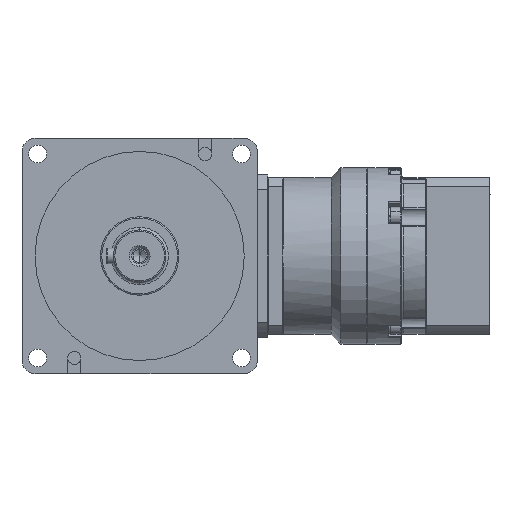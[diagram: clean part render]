
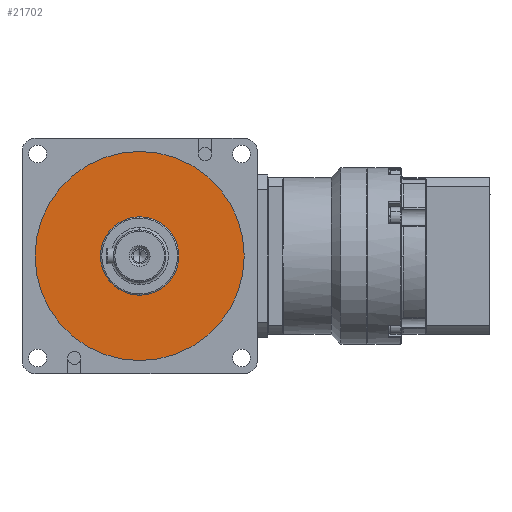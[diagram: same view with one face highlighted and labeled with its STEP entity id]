
A CAD part, front view. The second image highlights one B-rep face of the part: STEP entity #21702.
In plain terms, the highlighted planar face has unit normal (0, -1, 0) as drawn and (-1, 0, 0) by its records, which use the part's own axes.
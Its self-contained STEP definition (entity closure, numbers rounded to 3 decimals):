
#371 = DIRECTION ( 'NONE',  ( 0., 0., 1. ) ) ;
#2471 = ORIENTED_EDGE ( 'NONE', *, *, #27921, .F. ) ;
#3988 = AXIS2_PLACEMENT_3D ( 'NONE', #30420, #14166, #371 ) ;
#6037 = CARTESIAN_POINT ( 'NONE',  ( -31., 0., 15. ) ) ;
#7029 = CARTESIAN_POINT ( 'NONE',  ( -31., 0., 40. ) ) ;
#7523 = DIRECTION ( 'NONE',  ( 0., 0., 1. ) ) ;
#7601 = CIRCLE ( 'NONE', #36424, 40. ) ;
#8507 = EDGE_CURVE ( 'NONE', #32365, #26842, #30956, .T. ) ;
#9047 = CIRCLE ( 'NONE', #3988, 15. ) ;
#11021 = FACE_OUTER_BOUND ( 'NONE', #35263, .T. ) ;
#12019 = ORIENTED_EDGE ( 'NONE', *, *, #27844, .T. ) ;
#14089 = CARTESIAN_POINT ( 'NONE',  ( -31., 0., 0. ) ) ;
#14166 = DIRECTION ( 'NONE',  ( -1., 0., 0. ) ) ;
#14960 = VERTEX_POINT ( 'NONE', #7029 ) ;
#15772 = DIRECTION ( 'NONE',  ( -1., 0., 0. ) ) ;
#16899 = CARTESIAN_POINT ( 'NONE',  ( -31., 0., 0. ) ) ;
#18927 = DIRECTION ( 'NONE',  ( 0., 0., 1. ) ) ;
#19571 = EDGE_CURVE ( 'NONE', #14960, #43683, #27903, .T. ) ;
#20943 = CARTESIAN_POINT ( 'NONE',  ( -31., 0., -40. ) ) ;
#21400 = CARTESIAN_POINT ( 'NONE',  ( -31., 0., 0. ) ) ;
#21702 = ADVANCED_FACE ( 'NONE', ( #39245, #11021 ), #39011, .T. ) ;
#23701 = ORIENTED_EDGE ( 'NONE', *, *, #19571, .T. ) ;
#26594 = AXIS2_PLACEMENT_3D ( 'NONE', #21400, #28408, #18927 ) ;
#26842 = VERTEX_POINT ( 'NONE', #6037 ) ;
#27844 = EDGE_CURVE ( 'NONE', #43683, #14960, #7601, .T. ) ;
#27903 = CIRCLE ( 'NONE', #35089, 40. ) ;
#27921 = EDGE_CURVE ( 'NONE', #26842, #32365, #9047, .T. ) ;
#28063 = DIRECTION ( 'NONE',  ( -1., 0., 0. ) ) ;
#28408 = DIRECTION ( 'NONE',  ( -1., 0., 0. ) ) ;
#28459 = EDGE_LOOP ( 'NONE', ( #2471, #37255 ) ) ;
#30420 = CARTESIAN_POINT ( 'NONE',  ( -31., 0., 0. ) ) ;
#30956 = CIRCLE ( 'NONE', #37452, 15. ) ;
#32365 = VERTEX_POINT ( 'NONE', #36098 ) ;
#32896 = CARTESIAN_POINT ( 'NONE',  ( -31., 0., 0. ) ) ;
#33793 = DIRECTION ( 'NONE',  ( -1., 0., 0. ) ) ;
#35089 = AXIS2_PLACEMENT_3D ( 'NONE', #14089, #28063, #7523 ) ;
#35263 = EDGE_LOOP ( 'NONE', ( #23701, #12019 ) ) ;
#36098 = CARTESIAN_POINT ( 'NONE',  ( -31., 0., -15. ) ) ;
#36424 = AXIS2_PLACEMENT_3D ( 'NONE', #32896, #15772, #40365 ) ;
#37255 = ORIENTED_EDGE ( 'NONE', *, *, #8507, .F. ) ;
#37452 = AXIS2_PLACEMENT_3D ( 'NONE', #16899, #33793, #43997 ) ;
#39011 = PLANE ( 'NONE',  #26594 ) ;
#39245 = FACE_BOUND ( 'NONE', #28459, .T. ) ;
#40365 = DIRECTION ( 'NONE',  ( 0., 0., 1. ) ) ;
#43683 = VERTEX_POINT ( 'NONE', #20943 ) ;
#43997 = DIRECTION ( 'NONE',  ( 0., 0., 1. ) ) ;
